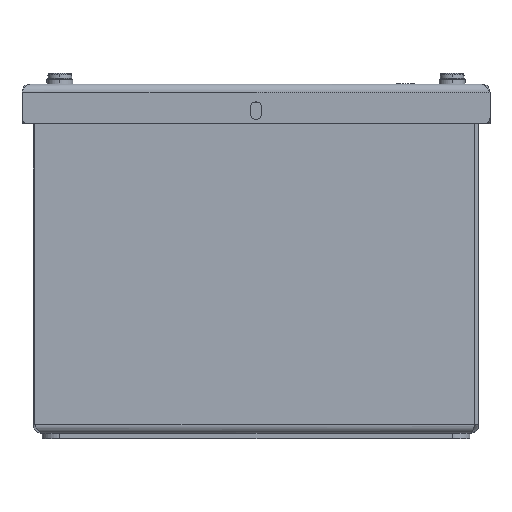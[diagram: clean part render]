
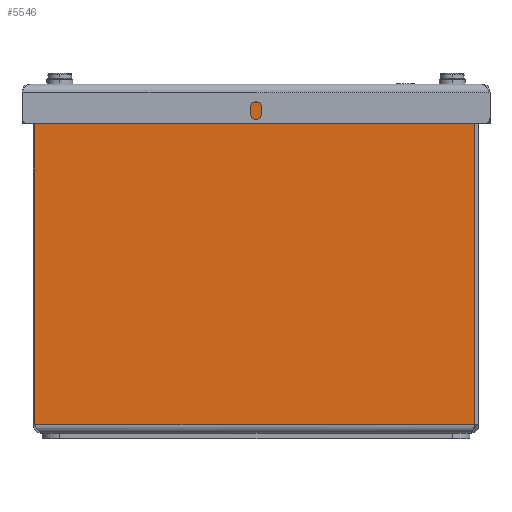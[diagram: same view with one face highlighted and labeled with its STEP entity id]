
A CAD part, left-side view. The second image highlights one B-rep face of the part: STEP entity #5546.
In plain terms, the highlighted planar face has unit normal (-1, 0, 0).
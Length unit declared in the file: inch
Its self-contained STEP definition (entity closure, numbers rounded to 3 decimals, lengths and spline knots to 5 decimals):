
#262=DIRECTION('',(0.,-1.,0.));
#263=VECTOR('',#262,6.168);
#264=CARTESIAN_POINT('',(0.,6.228,0.12));
#265=LINE('',#264,#263);
#1607=DIRECTION('',(0.,-1.,0.));
#1608=VECTOR('',#1607,5.47175);
#1609=CARTESIAN_POINT('',(0.,6.228,4.638));
#1610=LINE('',#1609,#1608);
#1696=DIRECTION('',(0.,0.,1.));
#1697=VECTOR('',#1696,4.518);
#1698=CARTESIAN_POINT('',(0.,6.228,0.12));
#1699=LINE('',#1698,#1697);
#1703=DIRECTION('',(0.,0.,1.));
#1704=VECTOR('',#1703,0.042);
#1705=CARTESIAN_POINT('',(0.,0.75625,4.638));
#1706=LINE('',#1705,#1704);
#1710=DIRECTION('',(0.,1.,0.));
#1711=VECTOR('',#1710,0.65125);
#1712=CARTESIAN_POINT('',(0.,0.105,4.68));
#1713=LINE('',#1712,#1711);
#1717=CARTESIAN_POINT('',(0.,0.105,4.635));
#1718=DIRECTION('',(-1.,0.,0.));
#1719=DIRECTION('',(0.,-1.,0.));
#1720=AXIS2_PLACEMENT_3D('',#1717,#1718,#1719);
#1767=DIRECTION('',(0.,0.,1.));
#1768=VECTOR('',#1767,4.515);
#1769=CARTESIAN_POINT('',(0.,0.06,0.12));
#1770=LINE('',#1769,#1768);
#3436=CARTESIAN_POINT('',(0.,0.75625,4.638));
#3437=CARTESIAN_POINT('',(0.,0.75625,4.68));
#3438=VERTEX_POINT('',#3436);
#3439=VERTEX_POINT('',#3437);
#3564=CARTESIAN_POINT('',(0.,6.228,0.12));
#3565=CARTESIAN_POINT('',(0.,6.228,4.638));
#3566=VERTEX_POINT('',#3564);
#3567=VERTEX_POINT('',#3565);
#3612=CARTESIAN_POINT('',(0.,0.06,4.635));
#3613=CARTESIAN_POINT('',(0.,0.105,4.68));
#3614=VERTEX_POINT('',#3612);
#3615=VERTEX_POINT('',#3613);
#3620=CARTESIAN_POINT('',(0.,0.06,0.12));
#3621=VERTEX_POINT('',#3620);
#5528=CARTESIAN_POINT('',(0.,6.25,0.));
#5529=DIRECTION('',(-1.,0.,0.));
#5530=DIRECTION('',(0.,-1.,0.));
#5531=AXIS2_PLACEMENT_3D('',#5528,#5529,#5530);
#5532=PLANE('',#5531);
#5533=ORIENTED_EDGE('',*,*,#5093,.T.);
#5534=ORIENTED_EDGE('',*,*,#5518,.T.);
#5536=ORIENTED_EDGE('',*,*,#5535,.T.);
#5538=ORIENTED_EDGE('',*,*,#5537,.F.);
#5540=ORIENTED_EDGE('',*,*,#5539,.F.);
#5542=ORIENTED_EDGE('',*,*,#5541,.F.);
#5543=ORIENTED_EDGE('',*,*,#4016,.F.);
#5544=EDGE_LOOP('',(#5533,#5534,#5536,#5538,#5540,#5542,#5543));
#5545=FACE_OUTER_BOUND('',#5544,.F.);
#1721=CIRCLE('',#1720,0.045);
#4016=EDGE_CURVE('',#3566,#3621,#265,.T.);
#5093=EDGE_CURVE('',#3566,#3567,#1699,.T.);
#5518=EDGE_CURVE('',#3567,#3438,#1610,.T.);
#5535=EDGE_CURVE('',#3438,#3439,#1706,.T.);
#5537=EDGE_CURVE('',#3615,#3439,#1713,.T.);
#5539=EDGE_CURVE('',#3614,#3615,#1721,.T.);
#5541=EDGE_CURVE('',#3621,#3614,#1770,.T.);
#5546=ADVANCED_FACE('',(#5545),#5532,.T.);
